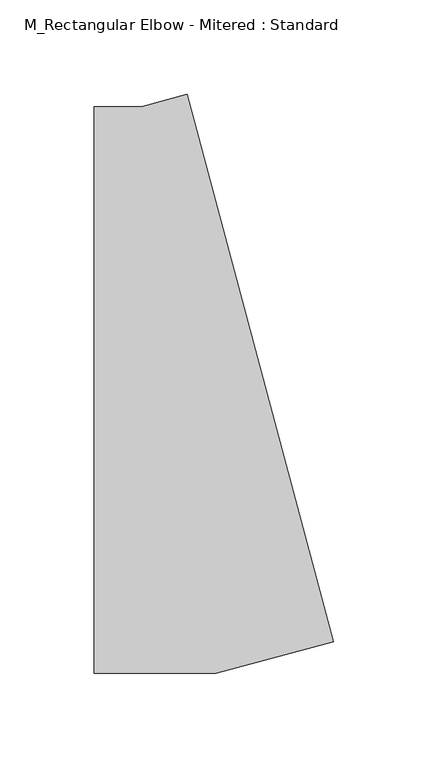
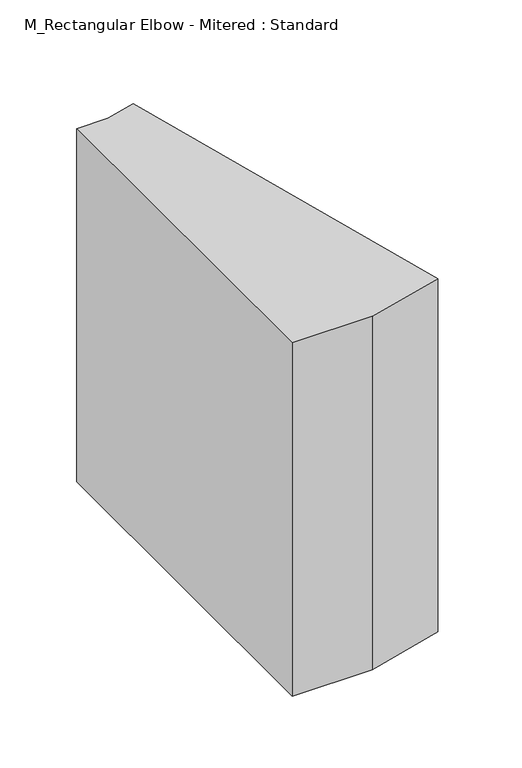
"""IFC4 building model written with IfcOpenShell, lengths in millimetres: duct fitting geometry, M_Rectangular Elbow - Mitered : Standard."""

from ifc_helpers import new_model, si_unit, frame, origin, place, context, project, spatial, polyline, outline, extrude, source, transform, mapped, element, save


def m_rectangular_elbow_mitered_standard_af8b91c0(model_context):
    return source(origin(), model_context, "Body", "SweptSolid", [
        extrude(outline(polyline([(-44.7478746, -150.0), (-44.7478746, 150.0), (-19.7478746, 150.0), (4.400271, 156.4704761), (82.0459845, -133.3072718), (19.7478746, -150.0), (-44.7478746, -150.0)])), frame((0.0, 0.0, -150.0), z_axis=(0.0, 0.0, 1.0), x_axis=(1.0, 0.0, 0.0)), (0.0, 0.0, 1.0), 300.0),
        extrude(outline(polyline([(-44.7478746, -150.0), (-44.7478746, 150.0), (-19.7478746, 150.0), (4.400271, 156.4704761), (82.0459845, -133.3072718), (19.7478746, -150.0), (-44.7478746, -150.0)])), frame((0.0, 0.0, -150.0), z_axis=(0.0, 0.0, 1.0), x_axis=(1.0, 0.0, 0.0)), (0.0, 0.0, 1.0), 300.0),
        extrude(outline(polyline([(-44.7478746, -150.0), (-44.7478746, 150.0), (-19.7478746, 150.0), (4.400271, 156.4704761), (82.0459845, -133.3072718), (19.7478746, -150.0), (-44.7478746, -150.0)])), frame((0.0, 0.0, -150.0), z_axis=(0.0, 0.0, 1.0), x_axis=(1.0, 0.0, 0.0)), (0.0, 0.0, 1.0), 300.0),
    ])


if __name__ == "__main__":
    model = new_model("IFC4")
    model_context = context("Model", 3, world=origin())
    ifc_project = project(units=[si_unit("LENGTHUNIT", "METRE", prefix="MILLI")], contexts=[model_context])
    site = spatial("IfcSite", under=ifc_project)
    building = spatial("IfcBuilding", under=site)
    placement = place(None, origin())
    m_rectangular_elbow_mitered_standard_shape = m_rectangular_elbow_mitered_standard_af8b91c0(model_context)
    element("IfcDuctFitting", 1, ObjectType="M_Rectangular Elbow - Mitered : Standard", at=placement, inside=building, context=model_context, shape_type="MappedRepresentation", body=[
        mapped(m_rectangular_elbow_mitered_standard_shape, transform((0.0, 0.0, 0.0), x_axis=(1.0, 0.0, 0.0), y_axis=(0.0, 1.0, 0.0), z_axis=(0.0, 0.0, 1.0))),
    ])
    save(model, "model.ifc")
